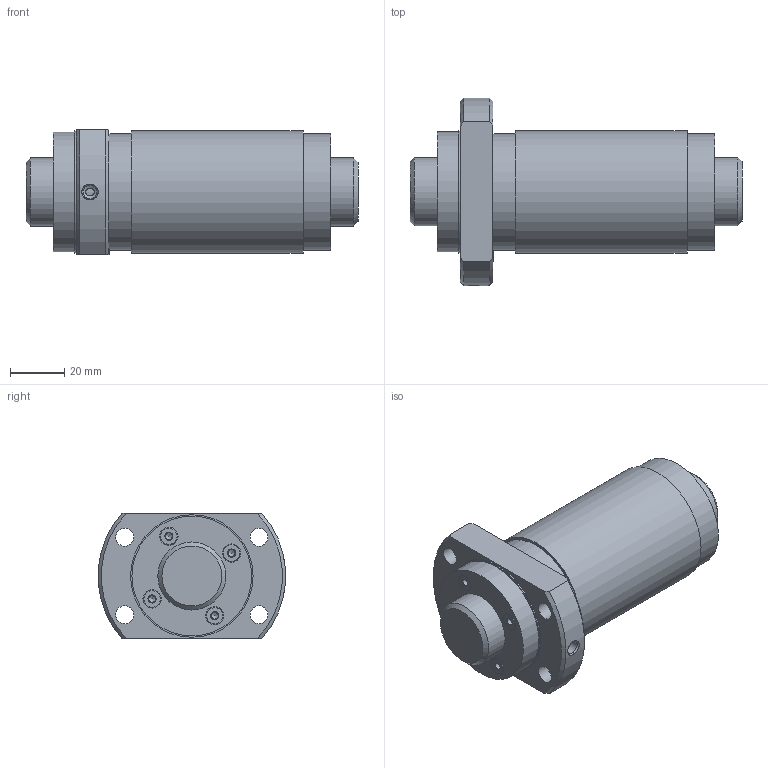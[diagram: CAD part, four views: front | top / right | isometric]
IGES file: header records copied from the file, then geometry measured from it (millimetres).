
Start section: Data from Parasolid IGES Translator 26.0.171, Copyright(c) 2006 Siemens PLM Software. All Rights Reserved.
Global section: file name: WGF2550-3G1+122LC3_0_13_0_0.igs; native system: By Siemens PLM Incorporated; preprocessor: XPlus GENERIC/IGES 26.0.171; author: Noname; organization: Noname; date: 20250116.062629; units: millimetre
Bounding box: 122 x 68.89 x 46 mm (x, y, z)
Surface area: 40608.4 mm2 (no closed solid volume)
Topology: 0 solids, 0 shells, 65 faces, 262 edges, 207 vertices
Faces by surface type: revolution 46, extrusion 19
